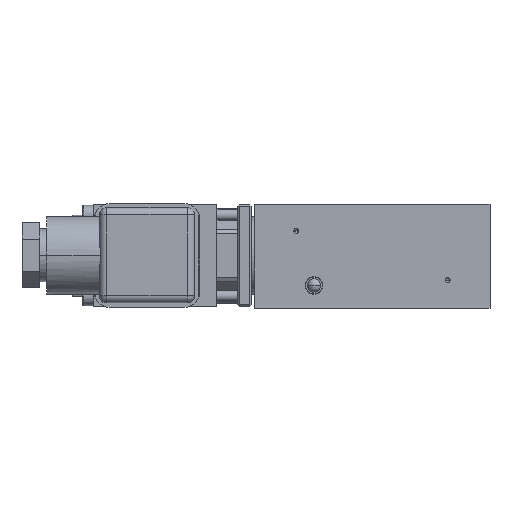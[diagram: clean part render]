
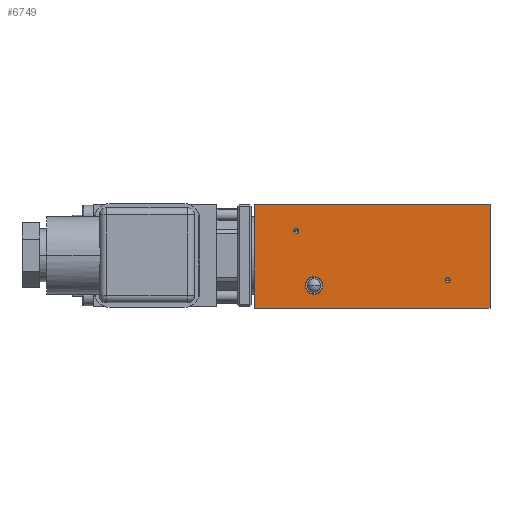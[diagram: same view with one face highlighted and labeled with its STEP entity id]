
A CAD part, top view. The second image highlights one B-rep face of the part: STEP entity #6749.
In plain terms, the highlighted planar face has unit normal (0, 0, 1).
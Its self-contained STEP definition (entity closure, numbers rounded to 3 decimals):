
#33 = LINE ( 'NONE', #24898, #17450 ) ;
#263 = VERTEX_POINT ( 'NONE', #543 ) ;
#543 = CARTESIAN_POINT ( 'NONE',  ( 12.7, 7.25, 15. ) ) ;
#548 = CARTESIAN_POINT ( 'NONE',  ( 0., -14.75, 15. ) ) ;
#784 = ORIENTED_EDGE ( 'NONE', *, *, #6959, .T. ) ;
#1897 = DIRECTION ( 'NONE',  ( 1., 0., 0. ) ) ;
#2012 = DIRECTION ( 'NONE',  ( 0., 0., 1. ) ) ;
#2435 = CARTESIAN_POINT ( 'NONE',  ( 12., 7.25, 15. ) ) ;
#3718 = DIRECTION ( 'NONE',  ( 0., -1., 0. ) ) ;
#3758 = FACE_BOUND ( 'NONE', #21314, .T. ) ;
#4093 = VERTEX_POINT ( 'NONE', #23588 ) ;
#4711 = AXIS2_PLACEMENT_3D ( 'NONE', #26530, #12973, #28804 ) ;
#4727 = DIRECTION ( 'NONE',  ( 1., 0., 0. ) ) ;
#4773 = CARTESIAN_POINT ( 'NONE',  ( 14.5, -8.25, 15. ) ) ;
#4805 = VECTOR ( 'NONE', #11345, 1000. ) ;
#4944 = CARTESIAN_POINT ( 'NONE',  ( 55., -6.75, 15. ) ) ;
#5549 = EDGE_CURVE ( 'NONE', #22373, #18020, #28423, .T. ) ;
#5562 = LINE ( 'NONE', #13628, #4805 ) ;
#5861 = ORIENTED_EDGE ( 'NONE', *, *, #16740, .F. ) ;
#6749 = ADVANCED_FACE ( 'NONE', ( #27231, #15883, #3758, #21183 ), #19489, .T. ) ;
#6785 = AXIS2_PLACEMENT_3D ( 'NONE', #2435, #18393, #4727 ) ;
#6867 = EDGE_LOOP ( 'NONE', ( #21787, #25480 ) ) ;
#6959 = EDGE_CURVE ( 'NONE', #23289, #4093, #5562, .T. ) ;
#7083 = ORIENTED_EDGE ( 'NONE', *, *, #16383, .T. ) ;
#7229 = EDGE_CURVE ( 'NONE', #22934, #28299, #9073, .T. ) ;
#7260 = DIRECTION ( 'NONE',  ( 1., 0., 0. ) ) ;
#9073 = CIRCLE ( 'NONE', #24382, 2.5 ) ;
#9734 = CIRCLE ( 'NONE', #19849, 0.7 ) ;
#10156 = CARTESIAN_POINT ( 'NONE',  ( 55.7, -6.75, 15. ) ) ;
#10263 = ORIENTED_EDGE ( 'NONE', *, *, #13256, .F. ) ;
#10514 = DIRECTION ( 'NONE',  ( 0., 0., 1. ) ) ;
#10647 = CARTESIAN_POINT ( 'NONE',  ( 0., 14.75, 15. ) ) ;
#10813 = EDGE_CURVE ( 'NONE', #28299, #22934, #14775, .T. ) ;
#10879 = CARTESIAN_POINT ( 'NONE',  ( 19.5, -8.25, 15. ) ) ;
#11345 = DIRECTION ( 'NONE',  ( 0., 1., 0. ) ) ;
#11790 = AXIS2_PLACEMENT_3D ( 'NONE', #4944, #20914, #7260 ) ;
#11950 = AXIS2_PLACEMENT_3D ( 'NONE', #15704, #2012, #17974 ) ;
#11973 = LINE ( 'NONE', #17338, #14842 ) ;
#11979 = CARTESIAN_POINT ( 'NONE',  ( 67., -14.75, 15. ) ) ;
#12107 = CARTESIAN_POINT ( 'NONE',  ( 17., -8.25, 15. ) ) ;
#12472 = ORIENTED_EDGE ( 'NONE', *, *, #16961, .T. ) ;
#12973 = DIRECTION ( 'NONE',  ( 0., 0., 1. ) ) ;
#13256 = EDGE_CURVE ( 'NONE', #263, #24716, #18165, .T. ) ;
#13628 = CARTESIAN_POINT ( 'NONE',  ( 67., 14.75, 15. ) ) ;
#14024 = EDGE_LOOP ( 'NONE', ( #7083, #24083, #784, #12472 ) ) ;
#14375 = DIRECTION ( 'NONE',  ( 1., 0., 0. ) ) ;
#14438 = LINE ( 'NONE', #19556, #19729 ) ;
#14775 = CIRCLE ( 'NONE', #20002, 2.5 ) ;
#14842 = VECTOR ( 'NONE', #3718, 1000. ) ;
#15588 = DIRECTION ( 'NONE',  ( 0., 0., 1. ) ) ;
#15704 = CARTESIAN_POINT ( 'NONE',  ( 55., -6.75, 15. ) ) ;
#15883 = FACE_BOUND ( 'NONE', #21329, .T. ) ;
#16383 = EDGE_CURVE ( 'NONE', #19471, #17862, #11973, .T. ) ;
#16586 = CIRCLE ( 'NONE', #11790, 0.7 ) ;
#16740 = EDGE_CURVE ( 'NONE', #18020, #22373, #16586, .T. ) ;
#16961 = EDGE_CURVE ( 'NONE', #4093, #19471, #14438, .T. ) ;
#17338 = CARTESIAN_POINT ( 'NONE',  ( 0., 14.75, 15. ) ) ;
#17450 = VECTOR ( 'NONE', #22579, 1000. ) ;
#17862 = VERTEX_POINT ( 'NONE', #548 ) ;
#17974 = DIRECTION ( 'NONE',  ( 1., 0., 0. ) ) ;
#18020 = VERTEX_POINT ( 'NONE', #10156 ) ;
#18165 = CIRCLE ( 'NONE', #6785, 0.7 ) ;
#18393 = DIRECTION ( 'NONE',  ( 0., 0., 1. ) ) ;
#18699 = ORIENTED_EDGE ( 'NONE', *, *, #26495, .F. ) ;
#19471 = VERTEX_POINT ( 'NONE', #10647 ) ;
#19489 = PLANE ( 'NONE',  #4711 ) ;
#19556 = CARTESIAN_POINT ( 'NONE',  ( 0., 14.75, 15. ) ) ;
#19721 = CARTESIAN_POINT ( 'NONE',  ( 11.3, 7.25, 15. ) ) ;
#19729 = VECTOR ( 'NONE', #21845, 1000. ) ;
#19849 = AXIS2_PLACEMENT_3D ( 'NONE', #29115, #15588, #1897 ) ;
#20002 = AXIS2_PLACEMENT_3D ( 'NONE', #12107, #27942, #14375 ) ;
#20422 = ORIENTED_EDGE ( 'NONE', *, *, #5549, .F. ) ;
#20914 = DIRECTION ( 'NONE',  ( 0., 0., 1. ) ) ;
#21183 = FACE_OUTER_BOUND ( 'NONE', #14024, .T. ) ;
#21314 = EDGE_LOOP ( 'NONE', ( #5861, #20422 ) ) ;
#21329 = EDGE_LOOP ( 'NONE', ( #10263, #18699 ) ) ;
#21787 = ORIENTED_EDGE ( 'NONE', *, *, #7229, .F. ) ;
#21845 = DIRECTION ( 'NONE',  ( -1., 0., 0. ) ) ;
#22373 = VERTEX_POINT ( 'NONE', #24721 ) ;
#22579 = DIRECTION ( 'NONE',  ( 1., 0., 0. ) ) ;
#22934 = VERTEX_POINT ( 'NONE', #10879 ) ;
#23289 = VERTEX_POINT ( 'NONE', #11979 ) ;
#23588 = CARTESIAN_POINT ( 'NONE',  ( 67., 14.75, 15. ) ) ;
#24083 = ORIENTED_EDGE ( 'NONE', *, *, #24440, .T. ) ;
#24144 = CARTESIAN_POINT ( 'NONE',  ( 17., -8.25, 15. ) ) ;
#24382 = AXIS2_PLACEMENT_3D ( 'NONE', #24144, #10514, #26398 ) ;
#24440 = EDGE_CURVE ( 'NONE', #17862, #23289, #33, .T. ) ;
#24716 = VERTEX_POINT ( 'NONE', #19721 ) ;
#24721 = CARTESIAN_POINT ( 'NONE',  ( 54.3, -6.75, 15. ) ) ;
#24898 = CARTESIAN_POINT ( 'NONE',  ( 0., -14.75, 15. ) ) ;
#25480 = ORIENTED_EDGE ( 'NONE', *, *, #10813, .F. ) ;
#26398 = DIRECTION ( 'NONE',  ( 1., 0., 0. ) ) ;
#26495 = EDGE_CURVE ( 'NONE', #24716, #263, #9734, .T. ) ;
#26530 = CARTESIAN_POINT ( 'NONE',  ( 0., 0., 15. ) ) ;
#27231 = FACE_BOUND ( 'NONE', #6867, .T. ) ;
#27942 = DIRECTION ( 'NONE',  ( 0., 0., 1. ) ) ;
#28299 = VERTEX_POINT ( 'NONE', #4773 ) ;
#28423 = CIRCLE ( 'NONE', #11950, 0.7 ) ;
#28804 = DIRECTION ( 'NONE',  ( 1., 0., 0. ) ) ;
#29115 = CARTESIAN_POINT ( 'NONE',  ( 12., 7.25, 15. ) ) ;
